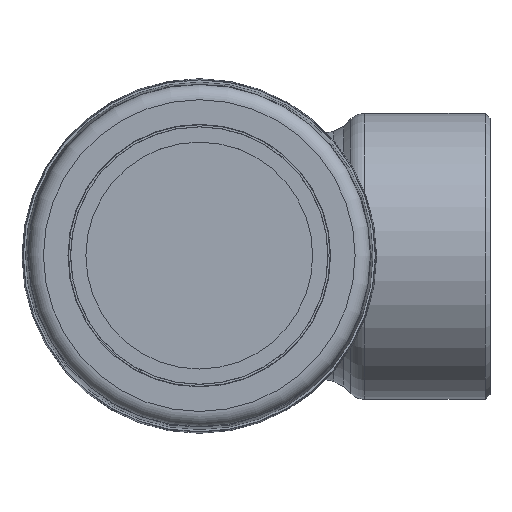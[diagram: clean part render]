
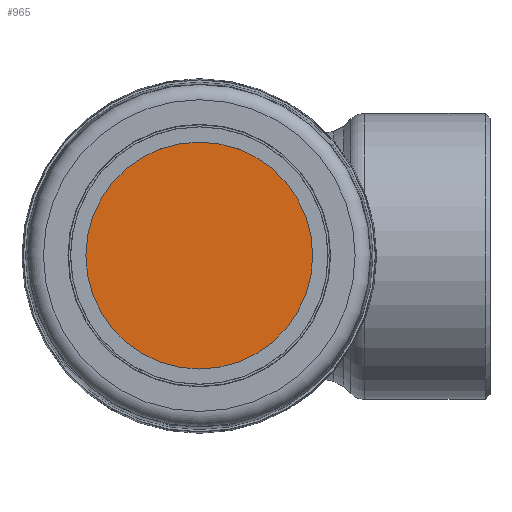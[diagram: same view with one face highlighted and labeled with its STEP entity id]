
A CAD part, top view. The second image highlights one B-rep face of the part: STEP entity #965.
In plain terms, the highlighted planar face has unit normal (0, 0, 1).
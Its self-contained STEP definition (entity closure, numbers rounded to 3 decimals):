
#139=FACE_OUTER_BOUND('',#199,.T.);
#199=EDGE_LOOP('',(#852,#853));
#271=CIRCLE('',#1096,11.9);
#272=CIRCLE('',#1097,11.9);
#456=VERTEX_POINT('',#1866);
#457=VERTEX_POINT('',#1867);
#593=EDGE_CURVE('',#456,#457,#271,.T.);
#594=EDGE_CURVE('',#457,#456,#272,.T.);
#852=ORIENTED_EDGE('',*,*,#593,.F.);
#853=ORIENTED_EDGE('',*,*,#594,.F.);
#916=PLANE('',#1095);
#965=ADVANCED_FACE('',(#139),#916,.T.);
#1095=AXIS2_PLACEMENT_3D('',#1865,#1364,#1365);
#1096=AXIS2_PLACEMENT_3D('',#1868,#1366,#1367);
#1097=AXIS2_PLACEMENT_3D('',#1869,#1368,#1369);
#1364=DIRECTION('center_axis',(0.,0.,1.));
#1365=DIRECTION('ref_axis',(1.,0.,0.));
#1366=DIRECTION('center_axis',(0.,0.,-1.));
#1367=DIRECTION('ref_axis',(1.,0.,0.));
#1368=DIRECTION('center_axis',(0.,0.,-1.));
#1369=DIRECTION('ref_axis',(1.,0.,0.));
#1865=CARTESIAN_POINT('Origin',(-11.9,0.,47.1));
#1866=CARTESIAN_POINT('',(-11.9,0.,47.1));
#1867=CARTESIAN_POINT('',(11.9,0.,47.1));
#1868=CARTESIAN_POINT('Origin',(0.,0.,47.1));
#1869=CARTESIAN_POINT('Origin',(0.,0.,47.1));
